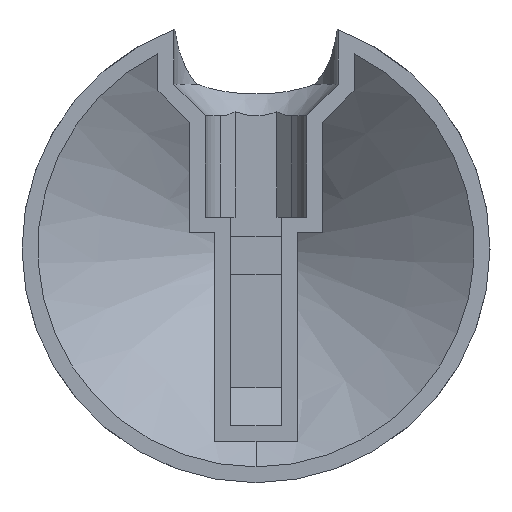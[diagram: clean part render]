
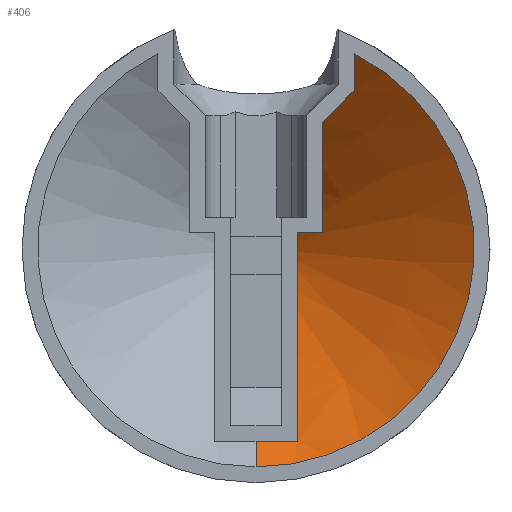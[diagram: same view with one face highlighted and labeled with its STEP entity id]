
A CAD part, front view. The second image highlights one B-rep face of the part: STEP entity #406.
In plain terms, the highlighted conical face has half-angle 53 degrees and reference radius 17.898 mm.
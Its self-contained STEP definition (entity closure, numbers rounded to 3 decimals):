
#4 = CONICAL_SURFACE ( 'NONE', #332, 17.898, 0.925 ) ;
#17 = CARTESIAN_POINT ( 'NONE',  ( 3.25, 10.531, -2.662 ) ) ;
#38 = ORIENTED_EDGE ( 'NONE', *, *, #553, .F. ) ;
#39 = CARTESIAN_POINT ( 'NONE',  ( 5.25, 9.622, 1.25 ) ) ;
#72 = ORIENTED_EDGE ( 'NONE', *, *, #1322, .F. ) ;
#94 = CARTESIAN_POINT ( 'NONE',  ( 7.75, 1.987, 13.466 ) ) ;
#110 = CARTESIAN_POINT ( 'NONE',  ( 3.25, 11.117, 1.055 ) ) ;
#121 = CARTESIAN_POINT ( 'NONE',  ( 5.25, 5.19, 9.982 ) ) ;
#126 = CARTESIAN_POINT ( 'NONE',  ( 3.25, 5.727, -10.059 ) ) ;
#131 = B_SPLINE_CURVE_WITH_KNOTS ( 'NONE', 3,
 ( #39, #651, #401, #896, #1387, #791, #889, #1380, #1026, #1149, #280, #171 ),
 .UNSPECIFIED., .F., .F.,
 ( 4, 2, 2, 2, 2, 4 ),
 ( 0.011, 0.012, 0.013, 0.016, 0.018, 0.02 ),
 .UNSPECIFIED. ) ;
#139 = CARTESIAN_POINT ( 'NONE',  ( 7.75, 2.617, 12.482 ) ) ;
#150 = CARTESIAN_POINT ( 'NONE',  ( 5.25, 5.19, 9.982 ) ) ;
#171 = CARTESIAN_POINT ( 'NONE',  ( 5.25, 5.19, 9.982 ) ) ;
#199 = ORIENTED_EDGE ( 'NONE', *, *, #737, .F. ) ;
#217 = CARTESIAN_POINT ( 'NONE',  ( 2.174, 2.108, -15.25 ) ) ;
#224 = DIRECTION ( 'NONE',  ( 0., -1., 0. ) ) ;
#243 = ORIENTED_EDGE ( 'NONE', *, *, #664, .F. ) ;
#244 = CARTESIAN_POINT ( 'NONE',  ( 3.25, 8.483, -6.105 ) ) ;
#251 = CARTESIAN_POINT ( 'NONE',  ( 3.25, 1.939, -15.25 ) ) ;
#280 = CARTESIAN_POINT ( 'NONE',  ( 5.25, 5.644, 9.301 ) ) ;
#295 = CARTESIAN_POINT ( 'NONE',  ( 0., 0.201, -17.898 ) ) ;
#309 = CARTESIAN_POINT ( 'NONE',  ( 7.75, 2.617, 12.482 ) ) ;
#331 = CARTESIAN_POINT ( 'NONE',  ( 3.25, 11.065, 1.25 ) ) ;
#332 = AXIS2_PLACEMENT_3D ( 'NONE', #829, #224, #683 ) ;
#343 = CARTESIAN_POINT ( 'NONE',  ( 3.25, 11.229, -0.358 ) ) ;
#358 = CARTESIAN_POINT ( 'NONE',  ( 7.75, 0.69, 15.411 ) ) ;
#366 = CARTESIAN_POINT ( 'NONE',  ( 3.25, 1.939, -15.25 ) ) ;
#395 = VERTEX_POINT ( 'NONE', #1049 ) ;
#401 = CARTESIAN_POINT ( 'NONE',  ( 5.25, 9.447, 2.059 ) ) ;
#406 = ADVANCED_FACE ( 'NONE', ( #1441 ), #4, .F. ) ;
#462 = CARTESIAN_POINT ( 'NONE',  ( 3.25, 10.849, -1.93 ) ) ;
#497 = CARTESIAN_POINT ( 'NONE',  ( 3.25, 11.178, -0.76 ) ) ;
#500 = CARTESIAN_POINT ( 'NONE',  ( 7.75, 2.617, 12.482 ) ) ;
#553 = EDGE_CURVE ( 'NONE', #1443, #558, #1245, .T. ) ;
#558 = VERTEX_POINT ( 'NONE', #139 ) ;
#559 = CARTESIAN_POINT ( 'NONE',  ( 0., 0.69, 0. ) ) ;
#566 = CIRCLE ( 'NONE', #946, 17.25 ) ;
#569 = ORIENTED_EDGE ( 'NONE', *, *, #833, .F. ) ;
#570 = DIRECTION ( 'NONE',  ( 0., 1., 0. ) ) ;
#598 = CARTESIAN_POINT ( 'NONE',  ( 3.25, 11.065, 1.25 ) ) ;
#605 = CARTESIAN_POINT ( 'NONE',  ( 3.25, 6.664, -8.753 ) ) ;
#609 = CARTESIAN_POINT ( 'NONE',  ( 6.919, 3.479, 11.651 ) ) ;
#613 = CARTESIAN_POINT ( 'NONE',  ( 3.25, 11.237, 0.248 ) ) ;
#626 = ORIENTED_EDGE ( 'NONE', *, *, #701, .T. ) ;
#651 = CARTESIAN_POINT ( 'NONE',  ( 5.25, 9.551, 1.659 ) ) ;
#664 = EDGE_CURVE ( 'NONE', #1418, #1443, #131, .T. ) ;
#683 = DIRECTION ( 'NONE',  ( 0., 0., -1. ) ) ;
#701 = EDGE_CURVE ( 'NONE', #916, #395, #1394, .T. ) ;
#703 = CARTESIAN_POINT ( 'NONE',  ( 3.25, 11.065, 1.25 ) ) ;
#737 = EDGE_CURVE ( 'NONE', #916, #1293, #740, .T. ) ;
#739 = CARTESIAN_POINT ( 'NONE',  ( 3.25, 2.892, -13.957 ) ) ;
#740 = B_SPLINE_CURVE_WITH_KNOTS ( 'NONE', 3,
 ( #822, #1195, #217, #1058 ),
 .UNSPECIFIED., .F., .F.,
 ( 4, 4 ),
 ( 0.009, 0.013 ),
 .UNSPECIFIED. ) ;
#778 = B_SPLINE_CURVE_WITH_KNOTS ( 'NONE', 3,
 ( #366, #739, #1453, #126, #605, #1445, #244, #1353, #1337, #860, #17, #462, #1573, #954, #497, #343, #1094, #613, #979, #1102, #110, #598 ),
 .UNSPECIFIED., .F., .F.,
 ( 4, 2, 2, 2, 2, 2, 2, 2, 2, 2, 4 ),
 ( 0.014, 0.019, 0.024, 0.027, 0.029, 0.03, 0.031, 0.032, 0.033, 0.033, 0.034 ),
 .UNSPECIFIED. ) ;
#791 = CARTESIAN_POINT ( 'NONE',  ( 5.25, 8.57, 4.355 ) ) ;
#801 = EDGE_LOOP ( 'NONE', ( #199, #626, #569, #1001, #38, #243, #851, #72 ) ) ;
#821 = CARTESIAN_POINT ( 'NONE',  ( 3.922, 10.592, 1.25 ) ) ;
#822 = CARTESIAN_POINT ( 'NONE',  ( 0., 2.197, -15.25 ) ) ;
#825 = VERTEX_POINT ( 'NONE', #703 ) ;
#829 = CARTESIAN_POINT ( 'NONE',  ( 0., 0.201, 0. ) ) ;
#833 = EDGE_CURVE ( 'NONE', #1243, #395, #566, .T. ) ;
#851 = ORIENTED_EDGE ( 'NONE', *, *, #1213, .F. ) ;
#860 = CARTESIAN_POINT ( 'NONE',  ( 3.25, 10.351, -3.019 ) ) ;
#861 = CARTESIAN_POINT ( 'NONE',  ( 0., 2.197, -15.25 ) ) ;
#877 = CARTESIAN_POINT ( 'NONE',  ( 5.25, 9.622, 1.25 ) ) ;
#889 = CARTESIAN_POINT ( 'NONE',  ( 5.25, 8.19, 5.09 ) ) ;
#896 = CARTESIAN_POINT ( 'NONE',  ( 5.25, 9.198, 2.84 ) ) ;
#915 = CARTESIAN_POINT ( 'NONE',  ( 7.75, 1.342, 14.442 ) ) ;
#916 = VERTEX_POINT ( 'NONE', #861 ) ;
#946 = AXIS2_PLACEMENT_3D ( 'NONE', #559, #570, #1309 ) ;
#954 = CARTESIAN_POINT ( 'NONE',  ( 3.25, 11.139, -0.961 ) ) ;
#979 = CARTESIAN_POINT ( 'NONE',  ( 3.25, 11.22, 0.452 ) ) ;
#1001 = ORIENTED_EDGE ( 'NONE', *, *, #1223, .F. ) ;
#1026 = CARTESIAN_POINT ( 'NONE',  ( 5.25, 6.964, 7.227 ) ) ;
#1045 = B_SPLINE_CURVE_WITH_KNOTS ( 'NONE', 3,
 ( #309, #94, #915, #1070 ),
 .UNSPECIFIED., .F., .F.,
 ( 4, 4 ),
 ( 0.006, 0.009 ),
 .UNSPECIFIED. ) ;
#1049 = CARTESIAN_POINT ( 'NONE',  ( 0., 0.69, -17.25 ) ) ;
#1058 = CARTESIAN_POINT ( 'NONE',  ( 3.25, 1.939, -15.25 ) ) ;
#1070 = CARTESIAN_POINT ( 'NONE',  ( 7.75, 0.69, 15.411 ) ) ;
#1094 = CARTESIAN_POINT ( 'NONE',  ( 3.25, 11.241, -0.157 ) ) ;
#1102 = CARTESIAN_POINT ( 'NONE',  ( 3.25, 11.16, 0.857 ) ) ;
#1104 = B_SPLINE_CURVE_WITH_KNOTS ( 'NONE', 3,
 ( #331, #821, #1317, #1416 ),
 .UNSPECIFIED., .F., .F.,
 ( 4, 4 ),
 ( 0.01, 0.012 ),
 .UNSPECIFIED. ) ;
#1149 = CARTESIAN_POINT ( 'NONE',  ( 5.25, 6.092, 8.615 ) ) ;
#1195 = CARTESIAN_POINT ( 'NONE',  ( 1.091, 2.197, -15.25 ) ) ;
#1211 = CARTESIAN_POINT ( 'NONE',  ( 6.087, 4.338, 10.819 ) ) ;
#1213 = EDGE_CURVE ( 'NONE', #825, #1418, #1104, .T. ) ;
#1223 = EDGE_CURVE ( 'NONE', #558, #1243, #1045, .T. ) ;
#1234 = VECTOR ( 'NONE', #1286, 1000. ) ;
#1243 = VERTEX_POINT ( 'NONE', #358 ) ;
#1245 = B_SPLINE_CURVE_WITH_KNOTS ( 'NONE', 3,
 ( #121, #1211, #609, #500 ),
 .UNSPECIFIED., .F., .F.,
 ( 4, 4 ),
 ( 0.014, 0.018 ),
 .UNSPECIFIED. ) ;
#1286 = DIRECTION ( 'NONE',  ( 0., -0.602, -0.799 ) ) ;
#1293 = VERTEX_POINT ( 'NONE', #251 ) ;
#1309 = DIRECTION ( 'NONE',  ( 0., 0., -1. ) ) ;
#1317 = CARTESIAN_POINT ( 'NONE',  ( 4.587, 10.108, 1.25 ) ) ;
#1322 = EDGE_CURVE ( 'NONE', #1293, #825, #778, .T. ) ;
#1337 = CARTESIAN_POINT ( 'NONE',  ( 3.25, 9.779, -4.073 ) ) ;
#1353 = CARTESIAN_POINT ( 'NONE',  ( 3.25, 9.356, -4.756 ) ) ;
#1380 = CARTESIAN_POINT ( 'NONE',  ( 5.25, 7.388, 6.525 ) ) ;
#1387 = CARTESIAN_POINT ( 'NONE',  ( 5.25, 9.052, 3.223 ) ) ;
#1394 = LINE ( 'NONE', #295, #1234 ) ;
#1416 = CARTESIAN_POINT ( 'NONE',  ( 5.25, 9.622, 1.25 ) ) ;
#1418 = VERTEX_POINT ( 'NONE', #877 ) ;
#1441 = FACE_OUTER_BOUND ( 'NONE', #801, .T. ) ;
#1443 = VERTEX_POINT ( 'NONE', #150 ) ;
#1445 = CARTESIAN_POINT ( 'NONE',  ( 3.25, 8.033, -6.771 ) ) ;
#1453 = CARTESIAN_POINT ( 'NONE',  ( 3.25, 3.842, -12.661 ) ) ;
#1573 = CARTESIAN_POINT ( 'NONE',  ( 3.25, 10.989, -1.554 ) ) ;
